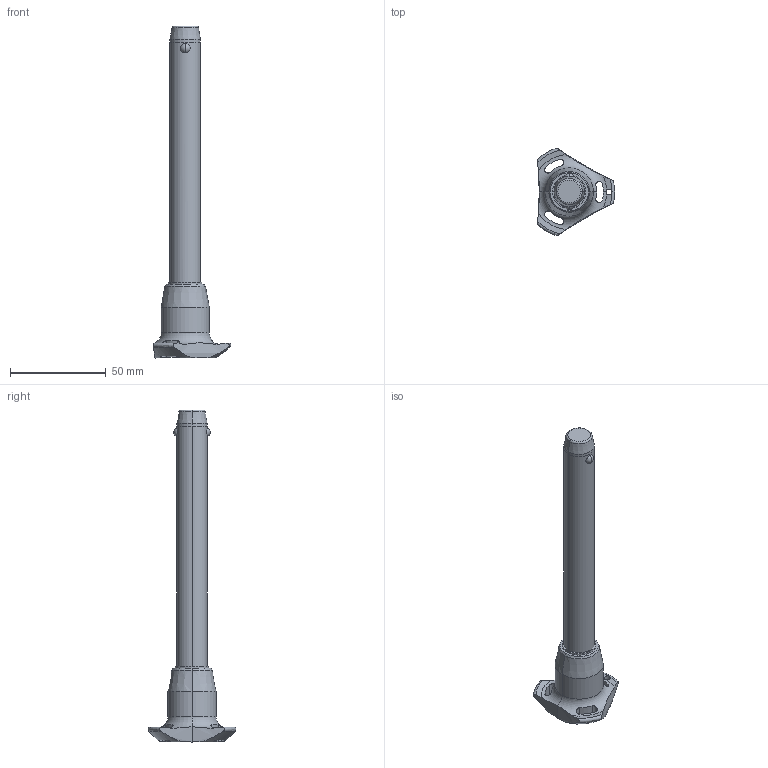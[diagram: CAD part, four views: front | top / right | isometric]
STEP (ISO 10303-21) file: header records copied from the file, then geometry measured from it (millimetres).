
FILE_DESCRIPTION (( 'STEP AP203' ), '1' );
FILE_NAME ('QR1726.M16-120-T.step', '2025-11-13T11:21:54', ( '' ), ( '' ), 'SwSTEP 2.0', 'SolidWorks 2019', '' );
FILE_SCHEMA (( 'CONFIG_CONTROL_DESIGN' ));
Length unit declared in the file: millimetre
Products named in the file (1): QR1726.M16-120-T
Bounding box: 40.5 x 45.88 x 173.7 mm (x, y, z)
Volume: 47857 mm3; surface area: 12624.8 mm2
Topology: 1 solids, 1 shells, 68 faces, 183 edges, 116 vertices
Faces by surface type: cylinder 32, cone 14, torus 11, sphere 6, plane 5
Entity records: 2923 total; most frequent: CARTESIAN_POINT 1170, ORIENTED_EDGE 366, DIRECTION 346, EDGE_CURVE 183, AXIS2_PLACEMENT_3D 154, VERTEX_POINT 116, CIRCLE 85, EDGE_LOOP 75
